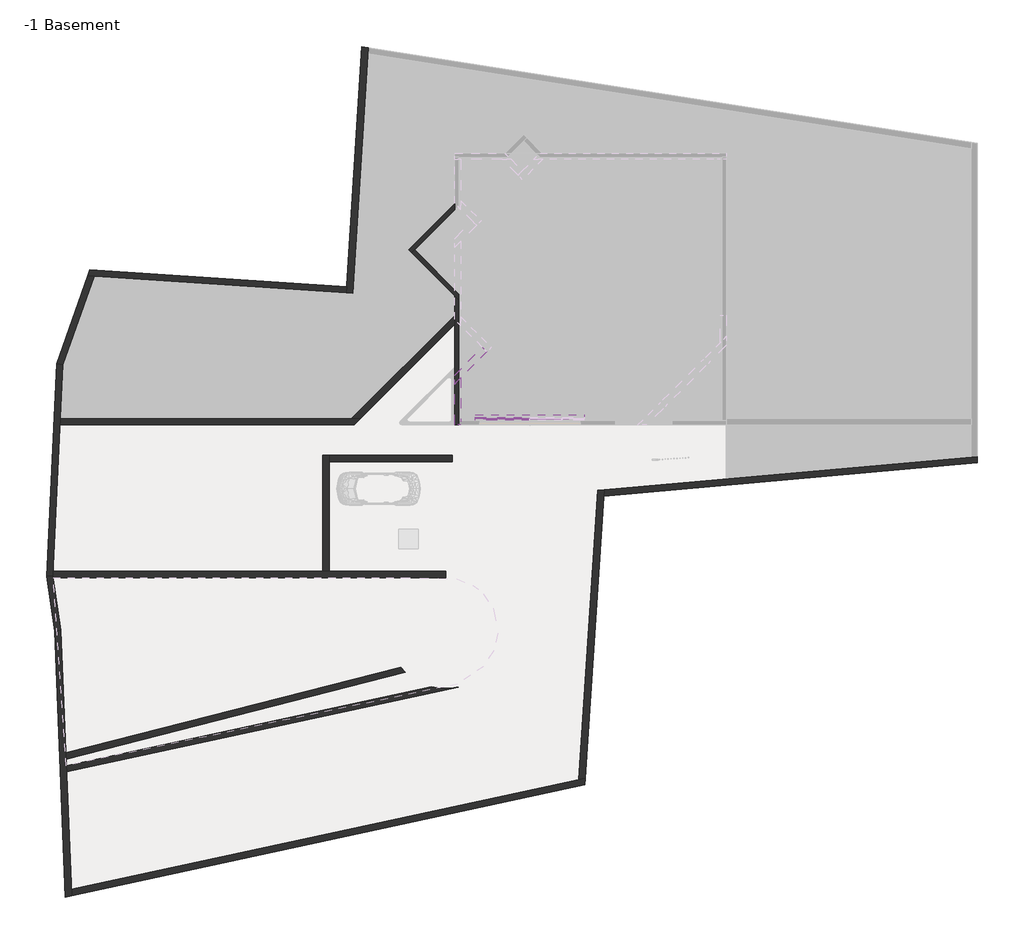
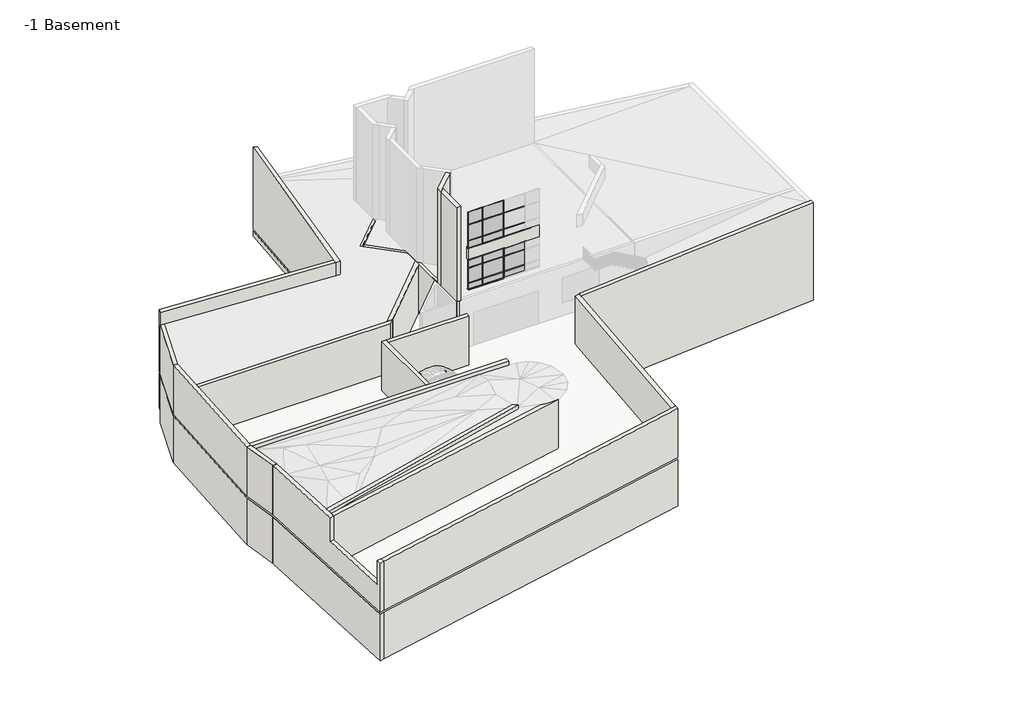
# One storey, part 1 of 2: 32 members, 22 walls, 16 plates.
"""IFC4 building model written with IfcOpenShell, lengths in millimetres."""

from ifc_helpers import new_model, si_unit, point, frame, frame_2d, origin, place, context, project, spatial, polyline, circle_curve, trimmed, segment, composite_curve, outline, extrude, faceted_brep, transform, mapped, element, save
from ifc_brep_helpers import plane_surface, revolved_surface, advanced_brep
from components import rectangular_mullion_30mm_square_58cf1550, rectangular_mullion_30mm_square_df6db07c, rectangular_mullion_30mm_square_fa95bdf8, rectangular_mullion_30mm_square_ba0c374f, rectangular_mullion_30mm_square_0362d8f6, rectangular_mullion_30mm_square_08ab3047, rectangular_mullion_30mm_square_6684157d, rectangular_mullion_30mm_square_f83bf9a0, rectangular_mullion_30mm_square_b668445a, rectangular_mullion_30mm_square_18d3f6a5, rectangular_mullion_30mm_square_0e867355, rectangular_mullion_30mm_square_db94e10f, rectangular_mullion_30mm_square_46f73a3d, rectangular_mullion_50_x_150mm_10bb7c7a, rectangular_mullion_50_x_150mm_cef6ab5d, system_panel_glazed_6d87a925, system_panel_glazed_2487e76f, system_panel_glazed_466595f5, system_panel_glazed_8358c7e7, system_panel_glazed_aaf3ec78, system_panel_glazed_bb9652dc, system_panel_glazed_b8eb6f75, system_panel_glazed_78962dc2, system_panel_glazed_890278ca, system_panel_glazed_fa1729a0, system_panel_glazed_85e1fe50, system_panel_glazed_5d21a3e7, system_panel_glazed_af77fa4d, system_panel_glazed_03078dcc, system_panel_glazed_2de029ef, system_panel_glazed_96e6370a

model = new_model("IFC4")

# Units and contexts
model_context = context("Model", 3, world=origin())
ifc_project = project(units=[si_unit("LENGTHUNIT", "METRE", prefix="MILLI")], contexts=[model_context])

# Site, building, storey
site = spatial("IfcSite", under=ifc_project)
building = spatial("IfcBuilding", under=site)
storey = spatial("IfcBuildingStorey", under=building, Name="-1 Basement", Elevation=-3800.0)

# Members
placement = place(None, origin())
rectangular_mullion_30mm_square_shape = rectangular_mullion_30mm_square_58cf1550(model_context)
element("IfcMember", 1, ObjectType="Rectangular Mullion : 30mm Square", at=placement, inside=storey, context=model_context, shape_type="MappedRepresentation", body=[
    mapped(rectangular_mullion_30mm_square_shape, transform((1000.000082, 300.0, 5422.5), x_axis=(0.0, 0.0, 1.0), y_axis=(0.0, 1.0, 0.0), z_axis=(-1.0, 0.0, 0.0))),
])
element("IfcMember", 2, ObjectType="Rectangular Mullion : 30mm Square", at=placement, inside=storey, context=model_context, shape_type="MappedRepresentation", body=[
    mapped(rectangular_mullion_30mm_square_shape, transform((1000.000082, 300.0, 4175.0), x_axis=(0.0, 0.0, 1.0), y_axis=(0.0, 1.0, 0.0), z_axis=(-1.0, 0.0, 0.0))),
])
element("IfcMember", 3, ObjectType="Rectangular Mullion : 30mm Square", at=placement, inside=storey, context=model_context, shape_type="MappedRepresentation", body=[
    mapped(rectangular_mullion_30mm_square_shape, transform((1000.000082, 300.0, 900.0), x_axis=(0.0, 0.0, 1.0), y_axis=(0.0, 1.0, 0.0), z_axis=(-1.0, 0.0, 0.0))),
])
element("IfcMember", 4, ObjectType="Rectangular Mullion : 30mm Square", at=placement, inside=storey, context=model_context, shape_type="MappedRepresentation", body=[
    mapped(rectangular_mullion_30mm_square_shape, transform((1000.000082, 300.0, 2075.0), x_axis=(0.0, 0.0, 1.0), y_axis=(0.0, 1.0, 0.0), z_axis=(-1.0, 0.0, 0.0))),
])
rectangular_mullion_30mm_square_2_shape = rectangular_mullion_30mm_square_df6db07c(model_context)
element("IfcMember", 5, ObjectType="Rectangular Mullion : 30mm Square", at=placement, inside=storey, context=model_context, shape_type="MappedRepresentation", body=[
    mapped(rectangular_mullion_30mm_square_2_shape, transform((2040.000082, 300.0, 5422.5), x_axis=(0.0, 0.0, 1.0), y_axis=(0.0, 1.0, 0.0), z_axis=(-1.0, 0.0, 0.0))),
])
element("IfcMember", 6, ObjectType="Rectangular Mullion : 30mm Square", at=placement, inside=storey, context=model_context, shape_type="MappedRepresentation", body=[
    mapped(rectangular_mullion_30mm_square_2_shape, transform((2040.000082, 300.0, 4175.0), x_axis=(0.0, 0.0, 1.0), y_axis=(0.0, 1.0, 0.0), z_axis=(-1.0, 0.0, 0.0))),
])
element("IfcMember", 7, ObjectType="Rectangular Mullion : 30mm Square", at=placement, inside=storey, context=model_context, shape_type="MappedRepresentation", body=[
    mapped(rectangular_mullion_30mm_square_2_shape, transform((2040.000082, 300.0, 900.0), x_axis=(0.0, 0.0, 1.0), y_axis=(0.0, 1.0, 0.0), z_axis=(-1.0, 0.0, 0.0))),
])
element("IfcMember", 8, ObjectType="Rectangular Mullion : 30mm Square", at=placement, inside=storey, context=model_context, shape_type="MappedRepresentation", body=[
    mapped(rectangular_mullion_30mm_square_2_shape, transform((2040.000082, 300.0, 2075.0), x_axis=(0.0, 0.0, 1.0), y_axis=(0.0, 1.0, 0.0), z_axis=(-1.0, 0.0, 0.0))),
])
rectangular_mullion_30mm_square_3_shape = rectangular_mullion_30mm_square_fa95bdf8(model_context)
element("IfcMember", 9, ObjectType="Rectangular Mullion : 30mm Square", at=placement, inside=storey, context=model_context, shape_type="MappedRepresentation", body=[
    mapped(rectangular_mullion_30mm_square_3_shape, transform((3600.000082, 300.0, 900.0), x_axis=(0.0, 0.0, 1.0), y_axis=(0.0, 1.0, 0.0), z_axis=(-1.0, 0.0, 0.0))),
])
element("IfcMember", 10, ObjectType="Rectangular Mullion : 30mm Square", at=placement, inside=storey, context=model_context, shape_type="MappedRepresentation", body=[
    mapped(rectangular_mullion_30mm_square_3_shape, transform((3600.000082, 300.0, 2075.0), x_axis=(0.0, 0.0, 1.0), y_axis=(0.0, 1.0, 0.0), z_axis=(-1.0, 0.0, 0.0))),
])
rectangular_mullion_30mm_square_4_shape = rectangular_mullion_30mm_square_ba0c374f(model_context)
element("IfcMember", 11, ObjectType="Rectangular Mullion : 30mm Square", at=placement, inside=storey, context=model_context, shape_type="MappedRepresentation", body=[
    mapped(rectangular_mullion_30mm_square_4_shape, transform((3600.000082, 300.0, 5422.5), x_axis=(0.0, 0.0, 1.0), y_axis=(0.0, 1.0, 0.0), z_axis=(-1.0, 0.0, 0.0))),
])
element("IfcMember", 12, ObjectType="Rectangular Mullion : 30mm Square", at=placement, inside=storey, context=model_context, shape_type="MappedRepresentation", body=[
    mapped(rectangular_mullion_30mm_square_4_shape, transform((3600.000082, 300.0, 4175.0), x_axis=(0.0, 0.0, 1.0), y_axis=(0.0, 1.0, 0.0), z_axis=(-1.0, 0.0, 0.0))),
])
rectangular_mullion_30mm_square_5_shape = rectangular_mullion_30mm_square_0362d8f6(model_context)
element("IfcMember", 13, ObjectType="Rectangular Mullion : 30mm Square", at=placement, inside=storey, context=model_context, shape_type="MappedRepresentation", body=[
    mapped(rectangular_mullion_30mm_square_5_shape, transform((2040.000082, 300.0, 5447.5), x_axis=(-1.0, 0.0, 0.0), y_axis=(0.0, 1.0, 0.0), z_axis=(0.0, 0.0, -1.0))),
])
element("IfcMember", 14, ObjectType="Rectangular Mullion : 30mm Square", at=placement, inside=storey, context=model_context, shape_type="MappedRepresentation", body=[
    mapped(rectangular_mullion_30mm_square_5_shape, transform((3600.000082, 300.0, 5447.5), x_axis=(-1.0, 0.0, 0.0), y_axis=(0.0, 1.0, 0.0), z_axis=(0.0, 0.0, -1.0))),
])
rectangular_mullion_30mm_square_6_shape = rectangular_mullion_30mm_square_08ab3047(model_context)
element("IfcMember", 15, ObjectType="Rectangular Mullion : 30mm Square", at=placement, inside=storey, context=model_context, shape_type="MappedRepresentation", body=[
    mapped(rectangular_mullion_30mm_square_6_shape, transform((2040.000082, 300.0, 925.0), x_axis=(-1.0, 0.0, 0.0), y_axis=(0.0, 1.0, 0.0), z_axis=(0.0, 0.0, -1.0))),
])
element("IfcMember", 16, ObjectType="Rectangular Mullion : 30mm Square", at=placement, inside=storey, context=model_context, shape_type="MappedRepresentation", body=[
    mapped(rectangular_mullion_30mm_square_6_shape, transform((3600.000082, 300.0, 925.0), x_axis=(-1.0, 0.0, 0.0), y_axis=(0.0, 1.0, 0.0), z_axis=(0.0, 0.0, -1.0))),
])
rectangular_mullion_30mm_square_7_shape = rectangular_mullion_30mm_square_6684157d(model_context)
element("IfcMember", 17, ObjectType="Rectangular Mullion : 30mm Square", at=placement, inside=storey, context=model_context, shape_type="MappedRepresentation", body=[
    mapped(rectangular_mullion_30mm_square_7_shape, transform((2040.000082, 300.0, 4200.0), x_axis=(-1.0, 0.0, 0.0), y_axis=(0.0, 1.0, 0.0), z_axis=(0.0, 0.0, -1.0))),
])
element("IfcMember", 18, ObjectType="Rectangular Mullion : 30mm Square", at=placement, inside=storey, context=model_context, shape_type="MappedRepresentation", body=[
    mapped(rectangular_mullion_30mm_square_7_shape, transform((3600.000082, 300.0, 4200.0), x_axis=(-1.0, 0.0, 0.0), y_axis=(0.0, 1.0, 0.0), z_axis=(0.0, 0.0, -1.0))),
])
rectangular_mullion_30mm_square_8_shape = rectangular_mullion_30mm_square_f83bf9a0(model_context)
element("IfcMember", 19, ObjectType="Rectangular Mullion : 30mm Square", at=placement, inside=storey, context=model_context, shape_type="MappedRepresentation", body=[
    mapped(rectangular_mullion_30mm_square_8_shape, transform((2040.000082, 300.0, 450.0), x_axis=(-1.0, 0.0, 0.0), y_axis=(0.0, 1.0, 0.0), z_axis=(0.0, 0.0, -1.0))),
])
element("IfcMember", 20, ObjectType="Rectangular Mullion : 30mm Square", at=placement, inside=storey, context=model_context, shape_type="MappedRepresentation", body=[
    mapped(rectangular_mullion_30mm_square_8_shape, transform((3600.000082, 300.0, 450.0), x_axis=(-1.0, 0.0, 0.0), y_axis=(0.0, 1.0, 0.0), z_axis=(0.0, 0.0, -1.0))),
])
rectangular_mullion_30mm_square_9_shape = rectangular_mullion_30mm_square_b668445a(model_context)
element("IfcMember", 21, ObjectType="Rectangular Mullion : 30mm Square", at=placement, inside=storey, context=model_context, shape_type="MappedRepresentation", body=[
    mapped(rectangular_mullion_30mm_square_9_shape, transform((1000.000082, 300.0, 3600.0), x_axis=(0.0, 0.0, 1.0), y_axis=(0.0, 1.0, 0.0), z_axis=(-1.0, 0.0, 0.0))),
])
element("IfcMember", 22, ObjectType="Rectangular Mullion : 30mm Square", at=placement, inside=storey, context=model_context, shape_type="MappedRepresentation", body=[
    mapped(rectangular_mullion_30mm_square_9_shape, transform((1000.000082, 300.0, 2700.0), x_axis=(0.0, 0.0, 1.0), y_axis=(0.0, 1.0, 0.0), z_axis=(-1.0, 0.0, 0.0))),
])
rectangular_mullion_30mm_square_10_shape = rectangular_mullion_30mm_square_18d3f6a5(model_context)
element("IfcMember", 23, ObjectType="Rectangular Mullion : 30mm Square", at=placement, inside=storey, context=model_context, shape_type="MappedRepresentation", body=[
    mapped(rectangular_mullion_30mm_square_10_shape, transform((2040.000082, 300.0, 2100.0), x_axis=(-1.0, 0.0, 0.0), y_axis=(0.0, 1.0, 0.0), z_axis=(0.0, 0.0, -1.0))),
])
element("IfcMember", 24, ObjectType="Rectangular Mullion : 30mm Square", at=placement, inside=storey, context=model_context, shape_type="MappedRepresentation", body=[
    mapped(rectangular_mullion_30mm_square_10_shape, transform((3600.000082, 300.0, 2100.0), x_axis=(-1.0, 0.0, 0.0), y_axis=(0.0, 1.0, 0.0), z_axis=(0.0, 0.0, -1.0))),
])
rectangular_mullion_30mm_square_11_shape = rectangular_mullion_30mm_square_0e867355(model_context)
element("IfcMember", 25, ObjectType="Rectangular Mullion : 30mm Square", at=placement, inside=storey, context=model_context, shape_type="MappedRepresentation", body=[
    mapped(rectangular_mullion_30mm_square_11_shape, transform((2040.000082, 300.0, 3575.0), x_axis=(-1.0, 0.0, 0.0), y_axis=(0.0, 1.0, 0.0), z_axis=(0.0, 0.0, -1.0))),
])
element("IfcMember", 26, ObjectType="Rectangular Mullion : 30mm Square", at=placement, inside=storey, context=model_context, shape_type="MappedRepresentation", body=[
    mapped(rectangular_mullion_30mm_square_11_shape, transform((3600.000082, 300.0, 3575.0), x_axis=(-1.0, 0.0, 0.0), y_axis=(0.0, 1.0, 0.0), z_axis=(0.0, 0.0, -1.0))),
])
rectangular_mullion_30mm_square_12_shape = rectangular_mullion_30mm_square_db94e10f(model_context)
element("IfcMember", 27, ObjectType="Rectangular Mullion : 30mm Square", at=placement, inside=storey, context=model_context, shape_type="MappedRepresentation", body=[
    mapped(rectangular_mullion_30mm_square_12_shape, transform((2065.000082, 300.0, 3600.0), x_axis=(0.0, 0.0, 1.0), y_axis=(0.0, 1.0, 0.0), z_axis=(-1.0, 0.0, 0.0))),
])
element("IfcMember", 28, ObjectType="Rectangular Mullion : 30mm Square", at=placement, inside=storey, context=model_context, shape_type="MappedRepresentation", body=[
    mapped(rectangular_mullion_30mm_square_12_shape, transform((2065.000082, 300.0, 2700.0), x_axis=(0.0, 0.0, 1.0), y_axis=(0.0, 1.0, 0.0), z_axis=(-1.0, 0.0, 0.0))),
])
rectangular_mullion_30mm_square_13_shape = rectangular_mullion_30mm_square_46f73a3d(model_context)
element("IfcMember", 29, ObjectType="Rectangular Mullion : 30mm Square", at=placement, inside=storey, context=model_context, shape_type="MappedRepresentation", body=[
    mapped(rectangular_mullion_30mm_square_13_shape, transform((3625.000082, 300.0, 3600.0), x_axis=(0.0, 0.0, 1.0), y_axis=(0.0, 1.0, 0.0), z_axis=(-1.0, 0.0, 0.0))),
])
element("IfcMember", 30, ObjectType="Rectangular Mullion : 30mm Square", at=placement, inside=storey, context=model_context, shape_type="MappedRepresentation", body=[
    mapped(rectangular_mullion_30mm_square_13_shape, transform((3625.000082, 300.0, 2700.0), x_axis=(0.0, 0.0, 1.0), y_axis=(0.0, 1.0, 0.0), z_axis=(-1.0, 0.0, 0.0))),
])
rectangular_mullion_50_x_150mm_shape = rectangular_mullion_50_x_150mm_10bb7c7a(model_context)
element("IfcMember", 31, ObjectType="Rectangular Mullion : 50 x 150mm", at=placement, inside=storey, context=model_context, shape_type="MappedRepresentation", body=[
    mapped(rectangular_mullion_50_x_150mm_shape, transform((2040.000082, 300.0, 400.0), x_axis=(0.0, 0.0, -1.0), y_axis=(0.0, 1.0, 0.0), z_axis=(1.0, 0.0, 0.0))),
])
rectangular_mullion_50_x_150mm_2_shape = rectangular_mullion_50_x_150mm_cef6ab5d(model_context)
element("IfcMember", 32, ObjectType="Rectangular Mullion : 50 x 150mm", at=placement, inside=storey, context=model_context, shape_type="MappedRepresentation", body=[
    mapped(rectangular_mullion_50_x_150mm_2_shape, transform((3600.000082, 300.0, 400.0), x_axis=(0.0, 0.0, -1.0), y_axis=(0.0, 1.0, 0.0), z_axis=(1.0, 0.0, 0.0))),
])

# Plates
system_panel_glazed_shape = system_panel_glazed_6d87a925(model_context)
element("IfcPlate", 33, ObjectType="System Panel : Glazed", at=placement, inside=storey, context=model_context, shape_type="MappedRepresentation", body=[
    mapped(system_panel_glazed_shape, transform((1507.500082, 300.0, 450.0), x_axis=(-1.0, 0.0, 0.0), y_axis=(0.0, -1.0, 0.0), z_axis=(0.0, 0.0, 1.0))),
])
system_panel_glazed_2_shape = system_panel_glazed_2487e76f(model_context)
element("IfcPlate", 34, ObjectType="System Panel : Glazed", at=placement, inside=storey, context=model_context, shape_type="MappedRepresentation", body=[
    mapped(system_panel_glazed_2_shape, transform((1507.500082, 300.0, 925.0), x_axis=(-1.0, 0.0, 0.0), y_axis=(0.0, -1.0, 0.0), z_axis=(0.0, 0.0, 1.0))),
])
system_panel_glazed_3_shape = system_panel_glazed_466595f5(model_context)
element("IfcPlate", 35, ObjectType="System Panel : Glazed", at=placement, inside=storey, context=model_context, shape_type="MappedRepresentation", body=[
    mapped(system_panel_glazed_3_shape, transform((1507.500082, 300.0, 2100.0), x_axis=(-1.0, 0.0, 0.0), y_axis=(0.0, -1.0, 0.0), z_axis=(0.0, 0.0, 1.0))),
])
system_panel_glazed_4_shape = system_panel_glazed_8358c7e7(model_context)
element("IfcPlate", 36, ObjectType="System Panel : Glazed", at=placement, inside=storey, context=model_context, shape_type="MappedRepresentation", body=[
    mapped(system_panel_glazed_4_shape, transform((1507.500082, 300.0, 3625.0), x_axis=(-1.0, 0.0, 0.0), y_axis=(0.0, -1.0, 0.0), z_axis=(0.0, 0.0, 1.0))),
])
system_panel_glazed_5_shape = system_panel_glazed_aaf3ec78(model_context)
element("IfcPlate", 37, ObjectType="System Panel : Glazed", at=placement, inside=storey, context=model_context, shape_type="MappedRepresentation", body=[
    mapped(system_panel_glazed_5_shape, transform((1507.500082, 300.0, 4200.0), x_axis=(-1.0, 0.0, 0.0), y_axis=(0.0, -1.0, 0.0), z_axis=(0.0, 0.0, 1.0))),
])
system_panel_glazed_6_shape = system_panel_glazed_bb9652dc(model_context)
element("IfcPlate", 38, ObjectType="System Panel : Glazed", at=placement, inside=storey, context=model_context, shape_type="MappedRepresentation", body=[
    mapped(system_panel_glazed_6_shape, transform((1507.500082, 300.0, 5447.5), x_axis=(-1.0, 0.0, 0.0), y_axis=(0.0, -1.0, 0.0), z_axis=(0.0, 0.0, 1.0))),
])
system_panel_glazed_7_shape = system_panel_glazed_b8eb6f75(model_context)
element("IfcPlate", 39, ObjectType="System Panel : Glazed", at=placement, inside=storey, context=model_context, shape_type="MappedRepresentation", body=[
    mapped(system_panel_glazed_7_shape, transform((2820.000082, 300.0, 450.0), x_axis=(-1.0, 0.0, 0.0), y_axis=(0.0, -1.0, 0.0), z_axis=(0.0, 0.0, 1.0))),
])
system_panel_glazed_8_shape = system_panel_glazed_78962dc2(model_context)
element("IfcPlate", 40, ObjectType="System Panel : Glazed", at=placement, inside=storey, context=model_context, shape_type="MappedRepresentation", body=[
    mapped(system_panel_glazed_8_shape, transform((2820.000082, 300.0, 925.0), x_axis=(-1.0, 0.0, 0.0), y_axis=(0.0, -1.0, 0.0), z_axis=(0.0, 0.0, 1.0))),
])
system_panel_glazed_9_shape = system_panel_glazed_890278ca(model_context)
element("IfcPlate", 41, ObjectType="System Panel : Glazed", at=placement, inside=storey, context=model_context, shape_type="MappedRepresentation", body=[
    mapped(system_panel_glazed_9_shape, transform((2820.000082, 300.0, 2100.0), x_axis=(-1.0, 0.0, 0.0), y_axis=(0.0, -1.0, 0.0), z_axis=(0.0, 0.0, 1.0))),
])
system_panel_glazed_10_shape = system_panel_glazed_fa1729a0(model_context)
element("IfcPlate", 42, ObjectType="System Panel : Glazed", at=placement, inside=storey, context=model_context, shape_type="MappedRepresentation", body=[
    mapped(system_panel_glazed_10_shape, transform((2820.000082, 300.0, 3625.0), x_axis=(-1.0, 0.0, 0.0), y_axis=(0.0, -1.0, 0.0), z_axis=(0.0, 0.0, 1.0))),
])
system_panel_glazed_11_shape = system_panel_glazed_85e1fe50(model_context)
element("IfcPlate", 43, ObjectType="System Panel : Glazed", at=placement, inside=storey, context=model_context, shape_type="MappedRepresentation", body=[
    mapped(system_panel_glazed_11_shape, transform((2820.000082, 300.0, 4200.0), x_axis=(-1.0, 0.0, 0.0), y_axis=(0.0, -1.0, 0.0), z_axis=(0.0, 0.0, 1.0))),
])
system_panel_glazed_12_shape = system_panel_glazed_5d21a3e7(model_context)
element("IfcPlate", 44, ObjectType="System Panel : Glazed", at=placement, inside=storey, context=model_context, shape_type="MappedRepresentation", body=[
    mapped(system_panel_glazed_12_shape, transform((2820.000082, 300.0, 5447.5), x_axis=(-1.0, 0.0, 0.0), y_axis=(0.0, -1.0, 0.0), z_axis=(0.0, 0.0, 1.0))),
])
system_panel_glazed_13_shape = system_panel_glazed_af77fa4d(model_context)
element("IfcPlate", 45, ObjectType="System Panel : Glazed", at=placement, inside=storey, context=model_context, shape_type="MappedRepresentation", body=[
    mapped(system_panel_glazed_13_shape, transform((4370.000082, 300.0, 450.0), x_axis=(-1.0, 0.0, 0.0), y_axis=(0.0, -1.0, 0.0), z_axis=(0.0, 0.0, 1.0))),
])
system_panel_glazed_14_shape = system_panel_glazed_03078dcc(model_context)
element("IfcPlate", 46, ObjectType="System Panel : Glazed", at=placement, inside=storey, context=model_context, shape_type="MappedRepresentation", body=[
    mapped(system_panel_glazed_14_shape, transform((4370.000082, 300.0, 925.0), x_axis=(-1.0, 0.0, 0.0), y_axis=(0.0, -1.0, 0.0), z_axis=(0.0, 0.0, 1.0))),
])
system_panel_glazed_15_shape = system_panel_glazed_2de029ef(model_context)
element("IfcPlate", 47, ObjectType="System Panel : Glazed", at=placement, inside=storey, context=model_context, shape_type="MappedRepresentation", body=[
    mapped(system_panel_glazed_15_shape, transform((4370.000082, 300.0, 2100.0), x_axis=(-1.0, 0.0, 0.0), y_axis=(0.0, -1.0, 0.0), z_axis=(0.0, 0.0, 1.0))),
])
system_panel_glazed_16_shape = system_panel_glazed_96e6370a(model_context)
element("IfcPlate", 48, ObjectType="System Panel : Glazed", at=placement, inside=storey, context=model_context, shape_type="MappedRepresentation", body=[
    mapped(system_panel_glazed_16_shape, transform((3600.000082, 300.0, 2725.0), x_axis=(-1.0, 0.0, 0.0), y_axis=(0.0, -1.0, 0.0), z_axis=(0.0, 0.0, 1.0))),
])

# Walls
element("IfcWall", 49, ObjectType="Generic - 200mm", at=placement, inside=storey, context=model_context, shape_type="Brep", body=[
    faceted_brep([(-0.0001061, 10571.6774773, -3800.0), (-2197.4135147, 8374.2640683, -3800.0), (-2197.4135147, 8374.2640683, 0.0), (-0.0001061, 10571.6774773, 0.0), (-0.0001061, 10288.8347648, -3800.0), (-0.0001061, 10288.8347648, 0.0), (-1914.5707988, 8374.2640717, 0.0), (-2055.992155, 8232.8427154, 0.0), (-2055.992155, 8232.8427154, -3800.0), (-1914.5707988, 8374.2640717, -3800.0)], [[[0, 1, 2, 3]], [[4, 5, 6, 7, 8, 9]], [[1, 0, 4, 9, 8]], [[3, 2, 7, 6, 5]], [[0, 3, 5, 4]], [[2, 1, 8, 7]]]),
])
element("IfcWall", 50, ObjectType="Generic - 200mm", at=placement, inside=storey, context=model_context, shape_type="Brep", body=[
    faceted_brep([(-2055.992155, 8232.8427154, -3800.0), (-0.0001061, 6176.8507655, -3800.0), (199.9998939, 5976.8507751, -3800.0), (199.9998939, 5976.8507751, 0.0), (-0.0001061, 6176.8507655, 0.0), (-2055.992155, 8232.8427154, 0.0), (-1914.5707988, 8374.2640717, -3800.0), (-1914.5707988, 8374.2640717, 0.0), (199.9998939, 6259.6934808, 0.0), (199.9998939, 6259.6934808, -3800.0)], [[[0, 1, 2, 3, 4, 5]], [[6, 7, 8, 9]], [[2, 1, 0, 6, 9]], [[5, 4, 3, 8, 7]], [[0, 5, 7, 6]], [[3, 2, 9, 8]]]),
])
element("IfcWall", 51, ObjectType="Generic - 200mm", at=placement, inside=storey, context=model_context, shape_type="Brep", body=[
    faceted_brep([(-0.0001061, 6176.8507655, -3800.0), (-0.0001061, 5232.5901808, -3800.0), (-0.0001061, 4808.3261121, -3800.0), (-0.0001061, -0.0001996, -3800.0), (-0.0001061, -0.0001996, 0.0), (-0.0001061, 4808.3261121, 0.0), (-0.0001061, 5232.5901808, 0.0), (-0.0001061, 6176.8507655, 0.0), (199.9998939, 5976.8507751, -3800.0), (199.9998939, 5976.8507751, 0.0), (199.9998939, 199.9998004, 0.0), (199.9998939, -0.0001996, 0.0), (199.9998939, -0.0001996, -3800.0), (199.9998939, 199.9998004, -3800.0)], [[[0, 1, 2, 3, 4, 5, 6, 7]], [[8, 9, 10, 11, 12, 13]], [[3, 2, 1, 0, 8, 13, 12]], [[7, 6, 5, 4, 11, 10, 9]], [[0, 7, 9, 8]], [[4, 3, 12, 11]]]),
])
element("IfcWall", 52, ObjectType="Generic - 200mm", at=placement, inside=storey, context=model_context, shape_type="SweptSolid", body=[
    extrude(outline(polyline([(1000.000082, 479.9997817), (6200.000082, 479.9997817), (6200.000082, 279.9997817), (1000.000082, 279.9997817), (1000.000082, 479.9997817)])), frame((0.0, 0.0, 2700.0), z_axis=(0.0, 0.0, 1.0), x_axis=(1.0, 0.0, 0.0)), (0.0, 0.0, 1.0), 900.0),
])
element("IfcWall", 53, ObjectType="Generic - 300mm", at=placement, inside=storey, context=model_context, shape_type="Brep", body=[
    faceted_brep([(1330.3656932, 3712.2748879, 0.0), (-0.0001061, 2381.9090886, 0.0), (-0.0001061, 2381.9090886, 7281.2615574), (1330.3656932, 3712.2748879, 7281.2615574), (1542.4977276, 3500.1428535, 0.0), (1542.4977276, 3500.1428535, 7281.2615574), (299.9998939, 2257.6450199, 7281.2615574), (-0.0001061, 1957.6450199, 7281.2615574), (-0.0001061, 1957.6450199, 0.0), (299.9998939, 2257.6450199, 0.0)], [[[0, 1, 2, 3]], [[4, 5, 6, 7, 8, 9]], [[1, 0, 4, 9, 8]], [[3, 2, 7, 6, 5]], [[0, 3, 5, 4]], [[2, 1, 8, 7]]]),
])
element("IfcWall", 54, ObjectType="Generic - 300mm", at=placement, inside=storey, context=model_context, shape_type="Brep", body=[
    faceted_brep([(-0.0001061, 1957.6450199, 0.0), (-0.0001061, -0.0002183, 0.0), (-0.0001061, -0.0002183, 7281.2615574), (-0.0001061, 1957.6450199, 7281.2615574), (299.9998939, 2257.6450199, 0.0), (299.9998939, 2257.6450199, 7281.2615574), (299.9998939, 299.9997817, 7281.2615574), (299.9998939, -0.0002183, 7281.2615574), (299.9998939, -0.0002183, 0.0), (299.9998939, 299.9997817, 0.0)], [[[0, 1, 2, 3]], [[4, 5, 6, 7, 8, 9]], [[1, 0, 4, 9, 8]], [[3, 2, 7, 6, 5]], [[0, 3, 5, 4]], [[2, 1, 8, 7]]]),
])
element("IfcWall", 55, ObjectType="Generic - 300mm", at=placement, inside=storey, context=model_context, shape_type="Brep", body=[
    faceted_brep([(-4874.7149452, 6292.0078471, -4363.0536853), (-4130.9873004, 18046.6994825, -4363.0536853), (-4130.9873004, 18046.6994825, -3950.0), (-4874.7149452, 6292.0078471, -3950.0), (-4428.6266418, 18093.4910601, -4363.0536853), (-5174.063407, 6311.7866008, -4363.0536853), (-5174.063407, 6311.7866008, -3950.0), (-5155.1200003, 6611.1890859, -3950.0), (-4428.6266418, 18093.4910601, -3950.0)], [[[0, 1, 2, 3]], [[4, 5, 6, 7, 8]], [[5, 0, 3, 6]], [[1, 4, 8, 2]], [[1, 0, 5, 4]], [[3, 2, 8, 7, 6]]]),
    faceted_brep([(-4130.9873004, 18046.6994825, 2500.0), (-4874.7149452, 6292.0078471, 1017.3453094), (-4874.7149452, 6292.0078471, -3800.0), (-4150.0124004, 17746.0058263, -3800.0), (-4130.9873004, 18046.6994825, -3800.0), (-4130.9873004, 18046.6994825, 0.0), (-5174.063407, 6311.7866008, 1017.4506835), (-4428.6266418, 18093.4910601, 2503.512583), (-4428.6266418, 18093.4910601, -3800.0), (-5155.1200003, 6611.1890859, -3800.0), (-5174.063407, 6311.7866008, -3800.0), (-5174.063407, 6311.7866008, 1000.0)], [[[0, 1, 2, 3, 4, 5]], [[6, 7, 8, 9, 10, 11]], [[1, 6, 11, 10, 2]], [[7, 0, 5, 4, 8]], [[1, 0, 7, 6]], [[4, 3, 2, 10, 9, 8]]]),
])
element("IfcWall", 56, ObjectType="Generic - 300mm", at=placement, inside=storey, context=model_context, shape_type="Brep", body=[
    faceted_brep([(-5174.063407, 6311.7866008, 1000.0), (-17546.8879496, 7129.2922207, 1000.0), (-17546.8879496, 7129.2922207, 0.0), (-17546.8879496, 7129.2922207, -3800.0), (-5174.063407, 6311.7866008, -3800.0), (-17443.8431327, 7423.1379006, 1000.0), (-5155.1200003, 6611.1890859, 1000.0), (-5155.1200003, 6611.1890859, -3800.0), (-17443.8431327, 7423.1379006, -3800.0)], [[[0, 1, 2, 3, 4]], [[5, 6, 7, 8]], [[6, 0, 4, 7]], [[1, 5, 8, 3, 2]], [[1, 0, 6, 5]], [[4, 3, 8, 7]]]),
    faceted_brep([(-17546.8879496, 7129.2922207, -6579.7857268), (-5174.063407, 6311.7866008, -5280.3830172), (-5174.063407, 6311.7866008, -4363.0536853), (-5174.063407, 6311.7866008, -3950.0), (-17546.8879496, 7129.2922207, -3950.0), (-5155.1200003, 6611.1890859, -5280.4707378), (-17443.8431327, 7423.1379006, -6571.0410584), (-17443.8431327, 7423.1379006, -3950.0), (-5155.1200003, 6611.1890859, -3950.0)], [[[0, 1, 2, 3, 4]], [[5, 6, 7, 8]], [[1, 5, 8, 3, 2]], [[6, 0, 4, 7]], [[1, 0, 6, 5]], [[4, 3, 8, 7]]]),
])
element("IfcWall", 57, ObjectType="Generic - 300mm", at=placement, inside=storey, context=model_context, shape_type="Brep", body=[
    faceted_brep([(-18722.4830963, 2870.3642585, -7544.2991913), (-17236.1757773, 7108.7626362, -7544.2991913), (-17236.1757773, 7108.7626362, -3950.0), (-18722.4830963, 2870.3642585, -3950.0), (-17546.8879496, 7129.2922207, -7544.2991913), (-19020.0367338, 2928.4171143, -7544.2991913), (-19020.0367338, 2928.4171143, -3950.0), (-17546.8879496, 7129.2922207, -3950.0), (-17546.8879496, 7129.2922207, -6579.7857268)], [[[0, 1, 2, 3]], [[4, 5, 6, 7, 8]], [[1, 0, 5, 4]], [[1, 4, 8, 7, 2]], [[5, 0, 3, 6]], [[3, 2, 7, 6]]]),
    faceted_brep([(-17236.1757773, 7108.7626362, 0.0), (-18722.4830963, 2870.3642585, 0.0), (-18722.4830963, 2870.3642585, -3800.0), (-17236.1757773, 7108.7626362, -3800.0), (-19020.0367338, 2928.4171143, 0.0), (-17546.8879496, 7129.2922207, 0.0), (-17546.8879496, 7129.2922207, -3800.0), (-19020.0367338, 2928.4171143, -3800.0)], [[[0, 1, 2, 3]], [[4, 5, 6, 7]], [[1, 0, 5, 4]], [[5, 0, 3, 6]], [[1, 4, 7, 2]], [[3, 2, 7, 6]]]),
])
element("IfcWall", 58, ObjectType="Generic - 300mm", at=placement, inside=storey, context=model_context, shape_type="Brep", body=[
    faceted_brep([(-19207.7218273, -7213.6217311, -7544.2991913), (-18722.4830963, 2870.3642585, -7544.2991913), (-18722.4830963, 2870.3642585, -3950.0), (-19207.7218273, -7213.6217311, -3950.0), (-19020.0367338, 2928.4171143, -7544.2991913), (-19508.7912641, -7228.6324394, -7544.2991913), (-19508.7912641, -7228.6324394, -3950.0), (-19020.0367338, 2928.4171143, -3950.0)], [[[0, 1, 2, 3]], [[4, 5, 6, 7]], [[1, 0, 5, 4]], [[1, 4, 7, 2]], [[5, 0, 3, 6]], [[3, 2, 7, 6]]]),
    faceted_brep([(-18722.4830963, 2870.3642585, 0.0), (-18846.1683426, 300.0, 0.0), (-18860.604263, 0.0, 0.0), (-19197.4424063, -7000.0, 0.0), (-19207.7218273, -7213.6217311, 0.0), (-19207.7218273, -7213.6217311, -3800.0), (-19197.4424063, -7000.0, -3800.0), (-18860.604263, 0.0, -3800.0), (-18846.1683426, 300.0, -3800.0), (-18722.4830963, 2870.3642585, -3800.0), (-19508.7912641, -7228.6324394, 0.0), (-19020.0367338, 2928.4171143, 0.0), (-19020.0367338, 2928.4171143, -3800.0), (-19508.7912641, -7228.6324394, -3800.0)], [[[0, 1, 2, 3, 4, 5, 6, 7, 8, 9]], [[10, 11, 12, 13]], [[4, 3, 2, 1, 0, 11, 10]], [[11, 0, 9, 12]], [[4, 10, 13, 5]], [[9, 8, 7, 6, 5, 13, 12]]]),
])
element("IfcWall", 59, ObjectType="Generic - 300mm", at=placement, inside=storey, context=model_context, shape_type="Brep", body=[
    faceted_brep([(-18819.1306681, -9825.1229167, -7544.2991913), (-19207.7218273, -7213.6217311, -7544.2991913), (-19207.7218273, -7213.6217311, -3950.0), (-18819.1306681, -9825.1229167, -3950.0), (-19508.7912641, -7228.6324394, -7544.2991913), (-19118.2456302, -9853.2685429, -7544.2991913), (-19118.2456302, -9853.2685429, -3950.0), (-19508.7912641, -7228.6324394, -3950.0)], [[[0, 1, 2, 3]], [[4, 5, 6, 7]], [[1, 0, 5, 4]], [[5, 0, 3, 6]], [[1, 4, 7, 2]], [[3, 2, 7, 6]]]),
    faceted_brep([(-19207.7218273, -7213.6217311, 0.0), (-19194.8687481, -7300.0, 0.0), (-18819.1306681, -9825.1229167, 0.0), (-18819.1306681, -9825.1229167, -3800.0), (-19194.8687481, -7300.0, -3800.0), (-19207.7218273, -7213.6217311, -3800.0), (-19118.2456302, -9853.2685429, 0.0), (-19508.7912641, -7228.6324394, 0.0), (-19508.7912641, -7228.6324394, -3800.0), (-19118.2456302, -9853.2685429, -3800.0)], [[[0, 1, 2, 3, 4, 5]], [[6, 7, 8, 9]], [[2, 1, 0, 7, 6]], [[2, 6, 9, 3]], [[7, 0, 5, 8]], [[5, 4, 3, 9, 8]]]),
])
element("IfcWall", 60, ObjectType="Generic - 300mm", at=placement, inside=storey, context=model_context, shape_type="Brep", body=[
    faceted_brep([(-19194.8687481, -7300.0, -3800.0), (-421.2384324, -7300.0, -3800.0), (-421.2384324, -7300.0, 0.0), (-19194.8687481, -7300.0, 0.0), (-19197.4424063, -7000.0, -3800.0), (-19197.4424063, -7000.0, 0.0), (-6300.0001061, -7000.0, 0.0), (-6000.0001061, -7000.0, 0.0), (-421.2384324, -7000.0, 0.0), (-421.2384324, -7000.0, -3800.0), (-6000.0001061, -7000.0, -3800.0), (-6300.0001061, -7000.0, -3800.0), (-19207.7218273, -7213.6217311, -3800.0), (-19207.7218273, -7213.6217311, 0.0)], [[[0, 1, 2, 3]], [[4, 5, 6, 7, 8, 9, 10, 11]], [[1, 0, 12, 4, 11, 10, 9]], [[2, 1, 9, 8]], [[3, 2, 8, 7, 6, 5, 13]], [[0, 3, 13, 12]], [[13, 5, 4, 12]]]),
])
element("IfcWall", 61, ObjectType="Generic - 300mm", at=placement, inside=storey, context=model_context, shape_type="Brep", body=[
    faceted_brep([(-18312.4744999, -22508.8514685, -7544.2991913), (-18819.1306681, -9825.1229167, -7544.2991913), (-18819.1306681, -9825.1229167, -3950.0), (-18312.4744999, -22508.8514685, -3950.0), (-19118.2456302, -9853.2685429, -7544.2991913), (-18610.1380323, -22573.3324667, -7544.2991913), (-18610.1380323, -22573.3324667, -3950.0), (-19118.2456302, -9853.2685429, -3950.0)], [[[0, 1, 2, 3]], [[4, 5, 6, 7]], [[1, 4, 7, 2]], [[5, 0, 3, 6]], [[1, 0, 5, 4]], [[3, 2, 7, 6]]]),
    faceted_brep([(-18819.1306681, -9825.1229167, 0.0), (-18585.3382736, -15677.9269593, 0.0), (-18573.0930813, -15984.4754717, 0.0), (-18560.9892082, -16287.4861733, 0.0), (-18548.8328419, -16591.8110004, 0.0), (-18548.8328419, -16591.8110004, -1831.2490685), (-18324.6308662, -22204.5266414, -1831.2490685), (-18324.6308662, -22204.5266414, 0.0), (-18312.4744999, -22508.8514685, 0.0), (-18312.4744999, -22508.8514685, -3800.0), (-18548.8328419, -16591.8110004, -3800.0), (-18560.9892082, -16287.4861733, -3800.0), (-18573.0930813, -15984.4754717, -3800.0), (-18585.3382736, -15677.9269593, -3800.0), (-18819.1306681, -9825.1229167, -3800.0), (-18846.4963743, -16656.2919986, 0.0), (-19118.2456302, -9853.2685429, 0.0), (-19118.2456302, -9853.2685429, -3800.0), (-18610.1380323, -22573.3324667, -3800.0), (-18610.1380323, -22573.3324667, 0.0), (-18624.3918074, -22216.5007016, 0.0), (-18624.3918074, -22216.5007016, -1831.2490685), (-18846.4963743, -16656.2919986, -1831.2490685)], [[[0, 1, 2, 3, 4, 5, 6, 7, 8, 9, 10, 11, 12, 13, 14]], [[15, 16, 17, 18, 19, 20, 21, 22]], [[16, 0, 14, 17]], [[8, 19, 18, 9]], [[4, 3, 2, 1, 0, 16, 15]], [[6, 5, 22, 21]], [[7, 6, 21, 20]], [[8, 7, 20, 19]], [[5, 4, 15, 22]], [[14, 13, 12, 11, 10, 9, 18, 17]]]),
])
element("IfcWall", 62, ObjectType="Generic - 300mm", at=placement, inside=storey, context=model_context, shape_type="Brep", body=[
    faceted_brep([(6241.8535177, -16882.8420465, -7547.1545166), (-18324.6308662, -22204.5266414, -7547.1545166), (-18324.6308662, -22204.5266414, -3950.0), (6241.8535177, -16882.8420465, -3950.0), (6241.8535177, -16882.8420465, -7493.7260805), (-18312.4744999, -22508.8514685, -7547.1545166), (6221.1350987, -17194.2883338, -7547.1545166), (6221.1350987, -17194.2883338, -3950.0), (-18312.4744999, -22508.8514685, -3950.0), (-18312.4744999, -22508.8514685, -7544.2991913)], [[[0, 1, 2, 3, 4]], [[5, 6, 7, 8, 9]], [[1, 5, 9, 8, 2]], [[6, 0, 4, 3, 7]], [[3, 2, 8, 7]], [[1, 0, 6, 5]]]),
    faceted_brep([(-18324.6308662, -22204.5266414, 0.0), (6241.8535177, -16882.8420465, 0.0), (6241.8535177, -16882.8420465, -48.7441831), (6241.8535177, -16882.8420465, -3800.0), (-18324.6308662, -22204.5266414, -3800.0), (6221.1350987, -17194.2883338, 0.0), (-18312.4744999, -22508.8514685, 0.0), (-18312.4744999, -22508.8514685, -3800.0), (6221.1350987, -17194.2883338, -3800.0)], [[[0, 1, 2, 3, 4]], [[5, 6, 7, 8]], [[6, 0, 4, 7]], [[1, 5, 8, 3, 2]], [[4, 3, 8, 7]], [[1, 0, 6, 5]]]),
])
element("IfcWall", 63, ObjectType="Generic - 300mm", at=placement, inside=storey, context=model_context, shape_type="Brep", body=[
    faceted_brep([(6856.1132204, -3129.4132653, -7493.7260805), (5936.7943891, -16948.9251066, -7493.7260805), (5936.7943891, -16948.9251066, -48.7441831), (6856.1132204, -3129.4132653, -48.7441831), (7158.5716891, -3102.4242039, -7493.7260805), (7158.5716891, -3102.4242039, -48.7441831), (6241.8535177, -16882.8420465, -48.7441831), (6241.8535177, -16882.8420465, -3800.0), (6241.8535177, -16882.8420465, -3950.0), (6241.8535177, -16882.8420465, -7493.7260805)], [[[0, 1, 2, 3]], [[4, 5, 6, 7, 8, 9]], [[2, 1, 9, 8, 7, 6]], [[0, 3, 5, 4]], [[1, 0, 4, 9]], [[3, 2, 6, 5]]]),
])
element("IfcWall", 64, ObjectType="Generic - 300mm", at=placement, inside=storey, context=model_context, shape_type="Brep", body=[
    faceted_brep([(24999.999894, -1510.3927312, -7512.6206632), (7158.5716891, -3102.4242039, -7512.6206632), (7158.5716891, -3102.4242039, -7493.7260805), (7158.5716891, -3102.4242039, -48.7441831), (7158.5716891, -3102.4242039, 0.0), (24699.999894, -1537.1624178, 0.0), (24999.999894, -1510.3927312, 0.0), (24999.999894, -1811.5847233, -7512.6206632), (24999.999894, -1811.5847233, 0.0), (7138.4157732, -3405.4147545, 0.0), (7138.4157732, -3405.4147545, -7512.6206632)], [[[0, 1, 2, 3, 4, 5, 6]], [[7, 8, 9, 10]], [[4, 3, 2, 1, 10, 9]], [[0, 6, 8, 7]], [[1, 0, 7, 10]], [[6, 5, 4, 9, 8]]]),
])
element("IfcWall", 65, ObjectType="Generic - 300mm", at=placement, inside=storey, context=model_context, shape_type="SweptSolid", body=[
    extrude(outline(composite_curve([segment(polyline([(-2350.5798849, -11829.1972697), (-18573.0930813, -15984.4754717), (-18585.3382736, -15677.9269593), (-2583.3411428, -11579.1323361)]), True, "CONTINUOUS"), segment(trimmed(circle_curve(frame_2d((-421.2384324, -9800.0)), 2800.0), [point((-2583.3411428, -11579.1323361))], [point((-2350.5798849, -11829.1972697))], True, "CARTESIAN"), True, "CONTINUOUS")], self_intersect=False)), frame((0.0, 0.0, -3800.0), z_axis=(0.0, 0.0, 1.0), x_axis=(1.0, 0.0, 0.0)), (0.0, 0.0, 1.0), 3800.0),
])
element("IfcWall", 66, ObjectType="Generic - 300mm", at=placement, inside=storey, context=model_context, shape_type="AdvancedBrep", body=[
    advanced_brep(
    [(-18548.8328419, -16591.8110004, -3800.0), (171.5588284, -12536.5290803, -3800.0), (171.5588284, -12536.5290803, 0.0), (-18548.8328419, -16591.8110004, 0.0), (-18548.8328419, -16591.8110004, -1831.2490685), (-18560.9892082, -16287.4861733, -3800.0), (-18560.9892082, -16287.4861733, 0.0), (-1124.3236907, -12510.289859, 0.0), (-1124.3236907, -12510.289859, -3800.0)],
    [
        (0, 1),
        (1, 2),
        (2, 3),
        (3, 4),
        (4, 0),
        (5, 6),
        (6, 7),
        (7, 8),
        (8, 5),
        (0, 5),
        (8, 1, circle_curve(frame((-421.2384324, -9800.0, -3800.0), z_axis=(0.0, 0.0, 1.0), x_axis=(1.0, 0.0, 0.0)), 2800.0)),
        (2, 7, circle_curve(frame((-421.2384324, -9800.0, 0.0), z_axis=(0.0, 0.0, -1.0), x_axis=(1.0, 0.0, 0.0)), 2800.0)),
        (6, 3),
    ],
    [
        plane_surface(frame((-18548.8328419, -16591.8110004, -3800.0), z_axis=(0.21171330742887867, -0.9773318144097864, 0.0), x_axis=(0.9773318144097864, 0.21171330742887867, 0.0))),
        plane_surface(frame((-18612.3468341, -16298.6114561, -3800.0), z_axis=(-0.21171330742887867, 0.9773318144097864, 0.0), x_axis=(-0.9773318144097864, -0.21171330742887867, 0.0))),
        plane_surface(frame((-18671.9857951, -16618.4888581, -3800.0), z_axis=(0.0, 0.0, -1.0000000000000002), x_axis=(-0.21171330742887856, 0.9773318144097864, 0.0))),
        plane_surface(frame((171.5588284, -12536.5290803, 0.0), z_axis=(0.0, 0.0, 1.0000000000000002), x_axis=(-0.21171330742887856, 0.9773318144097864, 0.0))),
        revolved_surface(polyline([(2378.7615676, -9800.0, 0.0), (2378.7615676, -9800.0, -3800.0)]), (-421.2384324, -9800.0, -3800.0), (0.0, 0.0, 1.0)),
        plane_surface(frame((-18818.484689, -9841.2944827, -7544.2991913), z_axis=(-0.999203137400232, -0.03991353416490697, 0.0), x_axis=(-0.03991353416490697, 0.999203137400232, 0.0))),
    ],
    [
        (0, [[1, 2, 3, 4, 5]]),
        (1, [[6, 7, 8, 9]]),
        (2, [[-1, 10, -9, 11]]),
        (3, [[-3, 12, -7, 13]]),
        (4, [[-2, -11, -8, -12]]),
        (5, [[-5, -4, -13, -6, -10]]),
    ],
),
])
element("IfcWall", 67, ObjectType="Generic - 300mm", at=placement, inside=storey, context=model_context, shape_type="Brep", body=[
    faceted_brep([(-18860.604263, 0.0, -3800.0), (-4808.3262181, 0.0, -3800.0), (-4808.3262181, 0.0, 0.0), (-18860.604263, 0.0, 0.0), (-18846.1683426, 300.0, -3800.0), (-18846.1683426, 300.0, 0.0), (-4932.5902868, 300.0, 0.0), (-4508.3262181, 300.0, 0.0), (-4508.3262181, 300.0, -3800.0), (-4932.5902868, 300.0, -3800.0)], [[[0, 1, 2, 3]], [[4, 5, 6, 7, 8, 9]], [[1, 0, 4, 9, 8]], [[3, 2, 7, 6, 5]], [[0, 3, 5, 4]], [[2, 1, 8, 7]]]),
])
element("IfcWall", 68, ObjectType="Generic - 300mm", at=placement, inside=storey, context=model_context, shape_type="SweptSolid", body=[
    extrude(outline(polyline([(-0.0001061, 4808.3261121), (-4508.3262181, 300.0), (-4932.5902868, 300.0), (-0.0001061, 5232.5901808), (-0.0001061, 4808.3261121)])), frame((0.0, 0.0, -3800.0), z_axis=(0.0, 0.0, 1.0), x_axis=(1.0, 0.0, 0.0)), (0.0, 0.0, 1.0), 3800.0),
])
element("IfcWall", 69, ObjectType="Generic - 300mm", at=placement, inside=storey, context=model_context, shape_type="Brep", body=[
    faceted_brep([(-6000.0001061, -7000.0, -3800.0), (-6000.0001061, -1750.0, -3800.0), (-6000.0001061, -1450.0, -3800.0), (-6000.0001061, -1450.0, 0.0), (-6000.0001061, -1750.0, 0.0), (-6000.0001061, -7000.0, 0.0), (-6300.0001061, -7000.0, -3800.0), (-6300.0001061, -7000.0, 0.0), (-6300.0001061, -1450.0, 0.0), (-6300.0001061, -1450.0, -3800.0)], [[[0, 1, 2, 3, 4, 5]], [[6, 7, 8, 9]], [[2, 1, 0, 6, 9]], [[5, 4, 3, 8, 7]], [[0, 5, 7, 6]], [[3, 2, 9, 8]]]),
])
element("IfcWall", 70, ObjectType="Generic - 300mm", at=placement, inside=storey, context=model_context, shape_type="SweptSolid", body=[
    extrude(outline(polyline([(-116.2951964, -1750.0), (-6000.0001061, -1750.0), (-6000.0001061, -1450.0), (-116.2951964, -1450.0), (-116.2951964, -1750.0)])), frame((0.0, 0.0, -3800.0), z_axis=(0.0, 0.0, 1.0), x_axis=(1.0, 0.0, 0.0)), (0.0, 0.0, 1.0), 3800.0),
])

save(model, "model.ifc")
